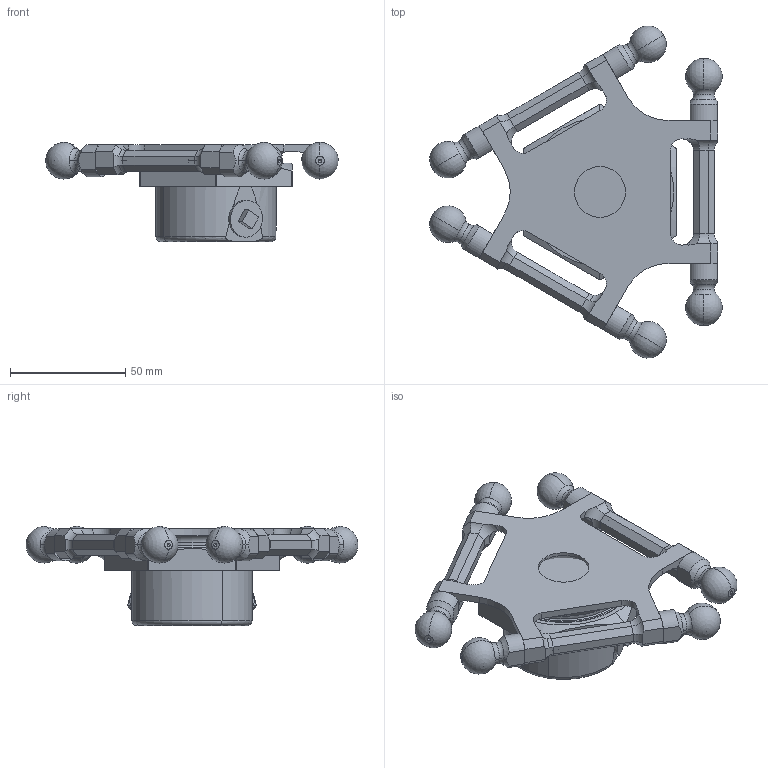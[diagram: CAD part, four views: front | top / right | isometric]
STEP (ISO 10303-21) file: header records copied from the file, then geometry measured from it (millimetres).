
FILE_DESCRIPTION (( 'STEP AP214' ), '1' );
FILE_NAME ('IRB360_X-1130-WDS-4D_rev03_PLATE_CAD.STEP', '2023-12-04T10:18:16', ( '' ), ( '' ), 'SwSTEP 2.0', 'SolidWorks 2022', '' );
FILE_SCHEMA (( 'AUTOMOTIVE_DESIGN' ));
Length unit declared in the file: millimetre
Products named in the file (1): IRB360_X-1130-WDS-4D_rev03_PLATE_CAD
Bounding box: 126.66 x 143.77 x 42.94 mm (x, y, z)
Volume: 127023.7 mm3; surface area: 64519.3 mm2
Topology: 12 solids, 12 shells, 480 faces, 1191 edges, 730 vertices
Faces by surface type: cylinder 175, plane 153, cone 74, torus 61, sphere 14, bspline 3
Entity records: 14778 total; most frequent: CARTESIAN_POINT 3496, DIRECTION 2378, ORIENTED_EDGE 2282, EDGE_CURVE 1141, AXIS2_PLACEMENT_3D 952, VERTEX_POINT 710, EDGE_LOOP 527, ADVANCED_FACE 480
